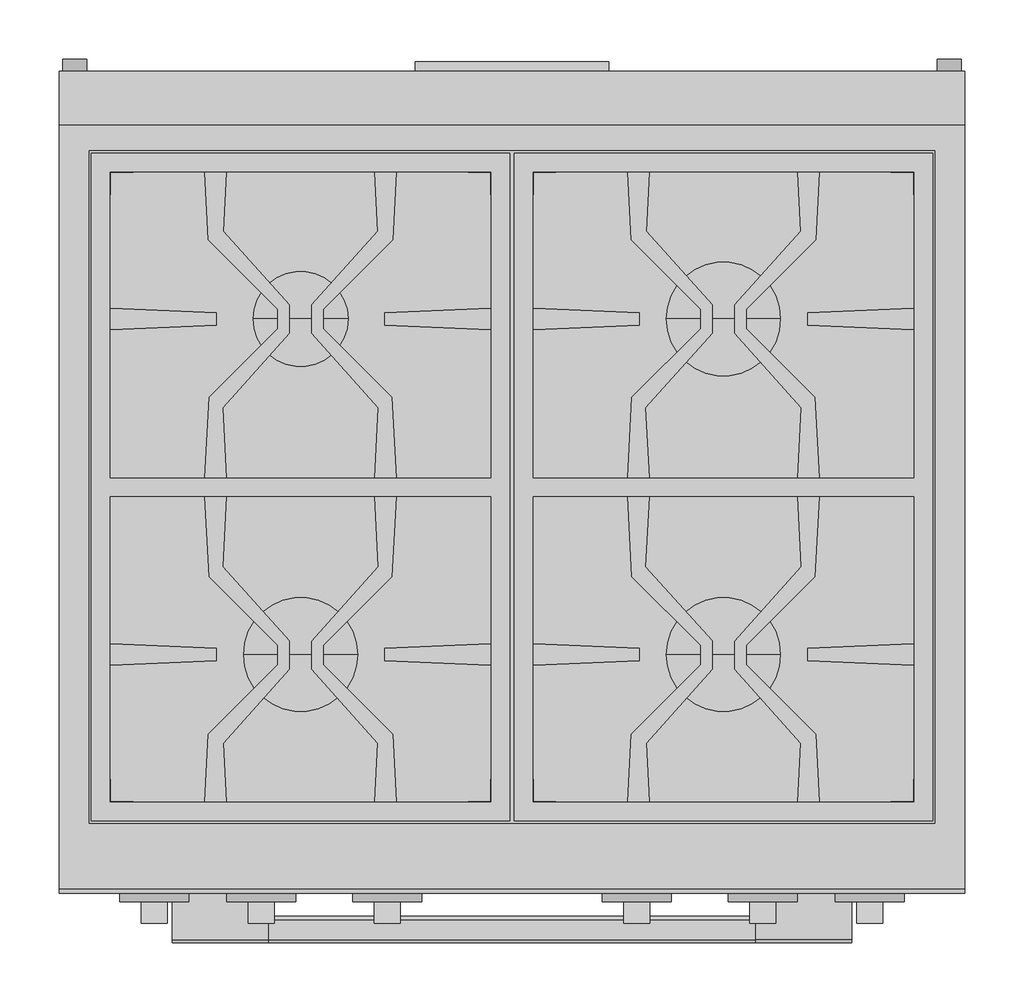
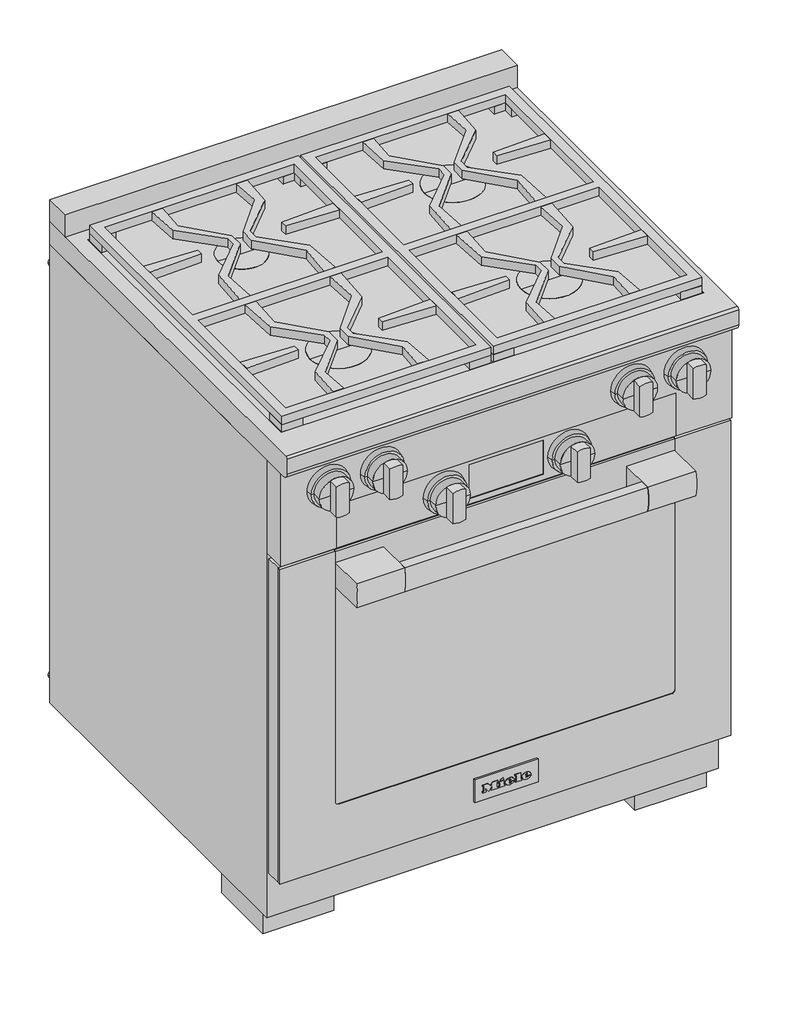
# Not in any storey: 1 proxy.
"""IFC4 building model written with IfcOpenShell, lengths in millimetres."""

from ifc_helpers import new_model, si_unit, origin, place, context, project, spatial, transform, mapped, element, save
from components import specialty_equipment_ee7d39d8, specialty_equipment_942a387a

model = new_model("IFC4")

# Units and contexts
model_context = context("Model", 3, world=origin())
ifc_project = project(units=[si_unit("LENGTHUNIT", "METRE", prefix="MILLI")], contexts=[model_context])

# Site, building
site = spatial("IfcSite", under=ifc_project)
building = spatial("IfcBuilding", under=site)

# Proxy
placement = place(None, origin())
specialty_equipment_shape = specialty_equipment_ee7d39d8(model_context)
specialty_equipment_2_shape = specialty_equipment_942a387a(model_context)
element("IfcBuildingElementProxy", 1, Name="11791530_USA_HR1724-3G_EDST-CLST : 25172481_USA_11791530_HR1724-3G_EDST-CLST", ObjectType="11791530_USA_HR1724-3G_EDST-CLST : 25172481_USA_11791530_HR1724-3G_EDST-CLST", at=placement, inside=building, context=model_context, shape_type="MappedRepresentation", body=[
    mapped(specialty_equipment_shape, transform((0.0, 0.0, 0.0), x_axis=(1.0, 0.0, 0.0), y_axis=(0.0, 1.0, 0.0), z_axis=(0.0, 0.0, 1.0))),
    mapped(specialty_equipment_2_shape, transform((0.0, 0.0, 0.0), x_axis=(1.0, 0.0, 0.0), y_axis=(0.0, 1.0, 0.0), z_axis=(0.0, 0.0, 1.0))),
])

save(model, "model.ifc")
